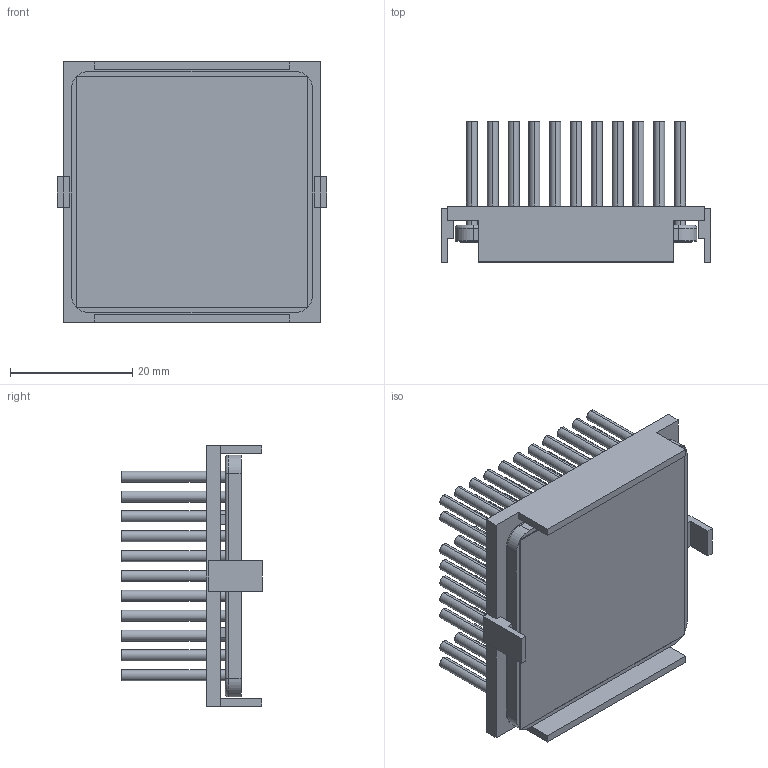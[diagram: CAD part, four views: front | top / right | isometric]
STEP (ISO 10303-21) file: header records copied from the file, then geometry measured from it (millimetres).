
FILE_DESCRIPTION (( 'STEP AP214' ), '1' );
FILE_NAME ('INM40002-20PCU-2.6Y.STEP', '2023-02-27T17:34:20', ( '' ), ( '' ), 'SwSTEP 2.0', 'SolidWorks 2020', '' );
FILE_SCHEMA (( 'AUTOMOTIVE_DESIGN' ));
Length unit declared in the file: inch
Products named in the file (1): INM40002-20PCU-2.6Y
Bounding box: 44.2 x 23.1 x 42.7 mm (x, y, z)
Volume: 11106.5 mm3; surface area: 20363.4 mm2
Topology: 3 solids, 3 shells, 421 faces, 898 edges, 596 vertices
Faces by surface type: cylinder 234, plane 183, torus 4
Entity records: 17099 total; most frequent: DIRECTION 2214, CARTESIAN_POINT 1916, ORIENTED_EDGE 1796, EDGE_CURVE 898, AXIS2_PLACEMENT_3D 894, VERTEX_POINT 596, EDGE_LOOP 536, CIRCLE 472
